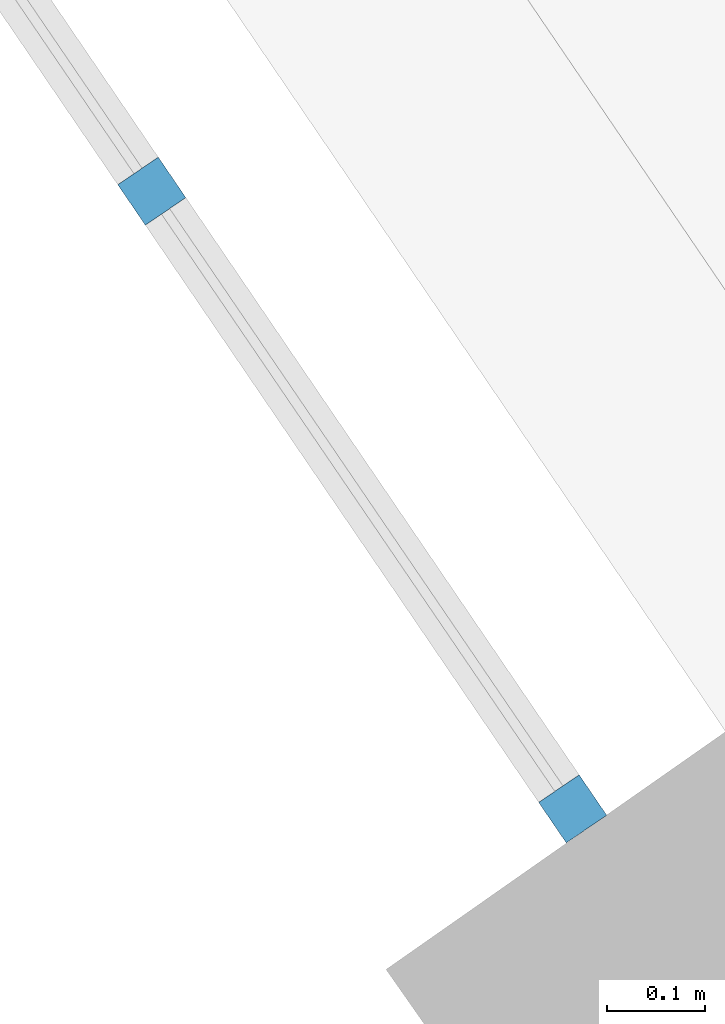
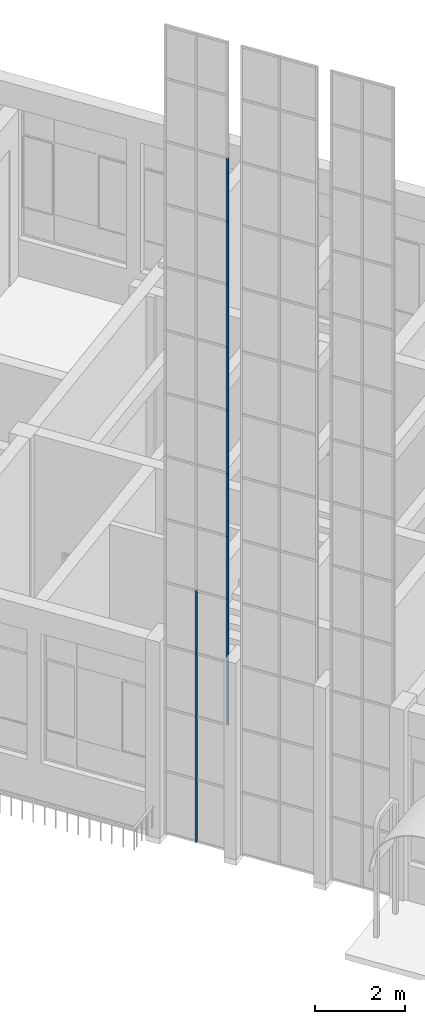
# One storey, part 17 of 157: 13 members, 1 element without a shape of its own.
"""IFC2X3 building model written with IfcOpenShell, lengths in millimetres."""

from ifc_helpers import new_model, entity, si_unit, converted_unit, derived_unit, direction, frame, origin, origin_2d_with_axis, place, context, subcontext, project, spatial, rectangle, extrude, source, transform, mapped, material, type_object, type_shapes, element, aggregate, save


model = new_model("IFC2X3")

# Units and contexts
model_context = context("Model", 3, precision=0.01, world=origin(), true_north=direction((6.123031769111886e-17, 1.0)))
body_context = subcontext(model_context, "Body", "Model", "MODEL_VIEW")
ifc_project = project(units=[si_unit("LENGTHUNIT", "METRE", prefix="MILLI"), si_unit("AREAUNIT", "SQUARE_METRE"), si_unit("VOLUMEUNIT", "CUBIC_METRE"), converted_unit("PLANEANGLEUNIT", "DEGREE", entity("IfcRatioMeasure", 0.017453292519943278), si_unit("PLANEANGLEUNIT", "RADIAN"), dimensions=[0, 0, 0, 0, 0, 0, 0]), si_unit("MASSUNIT", "GRAM", prefix="KILO"), derived_unit("MASSDENSITYUNIT", [(si_unit("MASSUNIT", "GRAM", prefix="KILO"), 1), (si_unit("LENGTHUNIT", "METRE"), -3)]), derived_unit("MOMENTOFINERTIAUNIT", [(si_unit("LENGTHUNIT", "METRE"), 4)]), si_unit("TIMEUNIT", "SECOND"), si_unit("FREQUENCYUNIT", "HERTZ"), si_unit("THERMODYNAMICTEMPERATUREUNIT", "DEGREE_CELSIUS"), derived_unit("THERMALTRANSMITTANCEUNIT", [(si_unit("MASSUNIT", "GRAM", prefix="KILO"), 1), (si_unit("THERMODYNAMICTEMPERATUREUNIT", "KELVIN"), -1), (si_unit("TIMEUNIT", "SECOND"), -3)]), derived_unit("THERMALCONDUCTANCEUNIT", [(si_unit("MASSUNIT", "GRAM", prefix="KILO"), 1), (si_unit("LENGTHUNIT", "METRE"), 1), (si_unit("THERMODYNAMICTEMPERATUREUNIT", "KELVIN"), -1), (si_unit("TIMEUNIT", "SECOND"), -3)]), derived_unit("VOLUMETRICFLOWRATEUNIT", [(si_unit("LENGTHUNIT", "METRE"), 3), (si_unit("TIMEUNIT", "SECOND"), -1)]), derived_unit("MASSFLOWRATEUNIT", [(si_unit("MASSUNIT", "GRAM", prefix="KILO"), 1), (si_unit("TIMEUNIT", "SECOND"), -1)]), derived_unit("ROTATIONALFREQUENCYUNIT", [(si_unit("TIMEUNIT", "SECOND"), -1)]), si_unit("ELECTRICCURRENTUNIT", "AMPERE"), si_unit("ELECTRICVOLTAGEUNIT", "VOLT"), si_unit("POWERUNIT", "WATT"), converted_unit("FORCEUNIT", "KIP", entity("IfcRatioMeasure", 2.088543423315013e-05), si_unit("FORCEUNIT", "NEWTON"), dimensions=[1, 1, -2, 0, 0, 0, 0]), si_unit("ILLUMINANCEUNIT", "LUX"), si_unit("LUMINOUSFLUXUNIT", "LUMEN"), si_unit("LUMINOUSINTENSITYUNIT", "CANDELA"), derived_unit("USERDEFINED", [(si_unit("MASSUNIT", "GRAM", prefix="KILO"), -1), (si_unit("LENGTHUNIT", "METRE"), -2), (si_unit("TIMEUNIT", "SECOND"), 3), (si_unit("LUMINOUSFLUXUNIT", "LUMEN"), 1)]), derived_unit("USERDEFINED", [(si_unit("MASSUNIT", "GRAM", prefix="KILO"), 1), (si_unit("LENGTHUNIT", "METRE"), 3), (si_unit("TIMEUNIT", "SECOND"), -3), (si_unit("ELECTRICCURRENTUNIT", "AMPERE"), -2)]), derived_unit("USERDEFINED", [(si_unit("LENGTHUNIT", "METRE"), 2), (si_unit("TIMEUNIT", "SECOND"), -2)]), derived_unit("SOUNDPOWERUNIT", [(si_unit("MASSUNIT", "GRAM", prefix="KILO"), 1), (si_unit("LENGTHUNIT", "METRE"), 2), (si_unit("TIMEUNIT", "SECOND"), -3)]), derived_unit("SOUNDPRESSUREUNIT", [(si_unit("MASSUNIT", "GRAM", prefix="KILO"), 1), (si_unit("LENGTHUNIT", "METRE"), -1), (si_unit("TIMEUNIT", "SECOND"), -2)]), derived_unit("LINEARVELOCITYUNIT", [(si_unit("LENGTHUNIT", "METRE"), 1), (si_unit("TIMEUNIT", "SECOND"), -1)]), si_unit("PRESSUREUNIT", "PASCAL"), derived_unit("USERDEFINED", [(si_unit("LENGTHUNIT", "METRE"), -2), (si_unit("MASSUNIT", "GRAM", prefix="KILO"), 1), (si_unit("TIMEUNIT", "SECOND"), -2)]), derived_unit("LINEARFORCEUNIT", [(si_unit("MASSUNIT", "GRAM", prefix="KILO"), 1), (si_unit("LENGTHUNIT", "METRE"), 1), (si_unit("TIMEUNIT", "SECOND"), -2), (si_unit("LENGTHUNIT", "METRE"), -1)]), derived_unit("PLANARFORCEUNIT", [(si_unit("MASSUNIT", "GRAM", prefix="KILO"), 1), (si_unit("LENGTHUNIT", "METRE"), 1), (si_unit("TIMEUNIT", "SECOND"), -2), (si_unit("LENGTHUNIT", "METRE"), -2)]), derived_unit("SPECIFICHEATCAPACITYUNIT", [(si_unit("LENGTHUNIT", "METRE"), 2), (si_unit("TIMEUNIT", "SECOND"), -2), (si_unit("THERMODYNAMICTEMPERATUREUNIT", "KELVIN"), -1)]), derived_unit("VAPORPERMEABILITYUNIT", [(si_unit("TIMEUNIT", "SECOND"), 1), (si_unit("LENGTHUNIT", "METRE"), -1)]), derived_unit("DYNAMICVISCOSITYUNIT", [(si_unit("MASSUNIT", "GRAM", prefix="KILO"), 1), (si_unit("LENGTHUNIT", "METRE"), -1), (si_unit("TIMEUNIT", "SECOND"), -1)]), derived_unit("THERMALEXPANSIONCOEFFICIENTUNIT", [(si_unit("THERMODYNAMICTEMPERATUREUNIT", "KELVIN"), -1)])], contexts=[model_context])

# Site, building, storey
site_placement = place(None, frame((0.0, 0.0, 0.0), z_axis=(0.0, 0.0, 1.0), x_axis=(0.8191520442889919, 0.5735764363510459, 0.0)))
site = spatial("IfcSite", under=ifc_project, at=site_placement, Name="Default", CompositionType="ELEMENT")
building_placement = place(site_placement, origin())
building = spatial("IfcBuilding", under=site, at=building_placement, CompositionType="ELEMENT")
storey_placement = place(building_placement, origin())
storey = spatial("IfcBuildingStorey", under=building, at=storey_placement, Name="1.EG +0.00", CompositionType="ELEMENT", Elevation=-4.331468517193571e-12)

# Curtain wall, members
curtain_wall_type = type_object("IfcCurtainWallType", Name="Curtain Wall:Curtain_Wall_CJC", PredefinedType="NOTDEFINED")
curtain_wall_placement = place(storey_placement, origin())
curtain_wall = element("IfcCurtainWall", 1, at=curtain_wall_placement, inside=storey, type_object=curtain_wall_type, Name="Curtain Wall:Curtain_Wall_CJC", ObjectType="Curtain Wall:Curtain_Wall_CJC")
ifc_material = material(Name="Aluminium")
member_type_1 = type_object("IfcMemberType", Name="Rectangular Mullion:5x5", PredefinedType="MULLION", material=ifc_material)
shared_shape_1 = source(origin(), body_context, "Body", "SweptSolid", [
    extrude(rectangle(XDim=50.0, YDim=50.0, at=origin_2d_with_axis()), frame((-25.0, 0.0, -1700.0), z_axis=(0.0, 0.0, 1.0), x_axis=(0.0, -1.0, 0.0)), (0.0, 0.0, 1.0), 1700.0000000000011),
])
type_shapes(member_type_1, [shared_shape_1])
member_1_placement = place(curtain_wall_placement, frame((-223070.5851543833, 113945.23194626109, 5100.0), z_axis=(0.0, 0.0, 1.0), x_axis=(-0.01272958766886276, -0.999918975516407, 0.0)))
member_1 = element("IfcMember", 2, at=member_1_placement, type_object=member_type_1, material=ifc_material, Name="Rectangular Mullion:5x5", ObjectType="Rectangular Mullion:5x5", context=body_context, shape_type="MappedRepresentation", body=[
    mapped(shared_shape_1, transform((0.0, 0.0, 0.0), scale=1.0)),
])
member_2_placement = place(curtain_wall_placement, frame((-223070.5851543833, 113945.23194626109, 6800.0), z_axis=(0.0, 0.0, 1.0), x_axis=(-0.01272958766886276, -0.999918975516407, 0.0)))
member_2 = element("IfcMember", 3, at=member_2_placement, type_object=member_type_1, material=ifc_material, Name="Rectangular Mullion:5x5", ObjectType="Rectangular Mullion:5x5", context=body_context, shape_type="MappedRepresentation", body=[
    mapped(shared_shape_1, transform((0.0, 0.0, 0.0), scale=1.0)),
])
member_3_placement = place(curtain_wall_placement, frame((-223070.5851543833, 113945.23194626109, 8500.0), z_axis=(0.0, 0.0, 1.0), x_axis=(-0.01272958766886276, -0.999918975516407, 0.0)))
member_3 = element("IfcMember", 4, at=member_3_placement, type_object=member_type_1, material=ifc_material, Name="Rectangular Mullion:5x5", ObjectType="Rectangular Mullion:5x5", context=body_context, shape_type="MappedRepresentation", body=[
    mapped(shared_shape_1, transform((0.0, 0.0, 0.0), scale=1.0)),
])
member_4_placement = place(curtain_wall_placement, frame((-223070.5851543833, 113945.23194626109, 10200.0), z_axis=(0.0, 0.0, 1.0), x_axis=(-0.01272958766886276, -0.999918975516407, 0.0)))
member_4 = element("IfcMember", 5, at=member_4_placement, type_object=member_type_1, material=ifc_material, Name="Rectangular Mullion:5x5", ObjectType="Rectangular Mullion:5x5", context=body_context, shape_type="MappedRepresentation", body=[
    mapped(shared_shape_1, transform((0.0, 0.0, 0.0), scale=1.0)),
])
member_5_placement = place(curtain_wall_placement, frame((-223070.5851543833, 113945.23194626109, 11900.0), z_axis=(0.0, 0.0, 1.0), x_axis=(-0.01272958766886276, -0.999918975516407, 0.0)))
member_5 = element("IfcMember", 6, at=member_5_placement, type_object=member_type_1, material=ifc_material, Name="Rectangular Mullion:5x5", ObjectType="Rectangular Mullion:5x5", context=body_context, shape_type="MappedRepresentation", body=[
    mapped(shared_shape_1, transform((0.0, 0.0, 0.0), scale=1.0)),
])
member_6_placement = place(curtain_wall_placement, frame((-223070.5851543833, 113945.23194626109, 13600.0), z_axis=(0.0, 0.0, 1.0), x_axis=(-0.01272958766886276, -0.999918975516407, 0.0)))
member_6 = element("IfcMember", 7, at=member_6_placement, type_object=member_type_1, material=ifc_material, Name="Rectangular Mullion:5x5", ObjectType="Rectangular Mullion:5x5", context=body_context, shape_type="MappedRepresentation", body=[
    mapped(shared_shape_1, transform((0.0, 0.0, 0.0), scale=1.0)),
])
member_7_placement = place(curtain_wall_placement, frame((-223070.5851543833, 113945.23194626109, 15300.0), z_axis=(0.0, 0.0, 1.0), x_axis=(-0.01272958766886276, -0.999918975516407, 0.0)))
member_7 = element("IfcMember", 8, at=member_7_placement, type_object=member_type_1, material=ifc_material, Name="Rectangular Mullion:5x5", ObjectType="Rectangular Mullion:5x5", context=body_context, shape_type="MappedRepresentation", body=[
    mapped(shared_shape_1, transform((0.0, 0.0, 0.0), scale=1.0)),
])
member_8_placement = place(curtain_wall_placement, frame((-223070.5851543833, 113945.23194626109, 17000.0), z_axis=(0.0, 0.0, 1.0), x_axis=(-0.01272958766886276, -0.999918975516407, 0.0)))
member_8 = element("IfcMember", 9, at=member_8_placement, type_object=member_type_1, material=ifc_material, Name="Rectangular Mullion:5x5", ObjectType="Rectangular Mullion:5x5", context=body_context, shape_type="MappedRepresentation", body=[
    mapped(shared_shape_1, transform((0.0, 0.0, 0.0), scale=1.0)),
])
member_9_placement = place(curtain_wall_placement, frame((-223070.5851543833, 113945.23194626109, 18700.0), z_axis=(0.0, 0.0, 1.0), x_axis=(-0.01272958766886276, -0.999918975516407, 0.0)))
member_9 = element("IfcMember", 10, at=member_9_placement, type_object=member_type_1, material=ifc_material, Name="Rectangular Mullion:5x5", ObjectType="Rectangular Mullion:5x5", context=body_context, shape_type="MappedRepresentation", body=[
    mapped(shared_shape_1, transform((0.0, 0.0, 0.0), scale=1.0)),
])
member_type_2 = type_object("IfcMemberType", Name="Rectangular Mullion:5x5", PredefinedType="MULLION", material=ifc_material)
shared_shape_2 = source(origin(), body_context, "Body", "SweptSolid", [
    extrude(rectangle(XDim=50.0, YDim=50.0, at=origin_2d_with_axis()), frame((0.0, 0.0, -1700.0), z_axis=(0.0, 0.0, 1.0), x_axis=(0.0, -1.0, 0.0)), (0.0, 0.0, 1.0), 1700.0),
])
type_shapes(member_type_2, [shared_shape_2])
member_10_placement = place(curtain_wall_placement, frame((-223060.55261829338, 114733.29543030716, 0.0), z_axis=(0.0, 0.0, -1.0), x_axis=(0.01272958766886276, 0.999918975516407, 0.0)))
member_10 = element("IfcMember", 11, at=member_10_placement, type_object=member_type_2, material=ifc_material, Name="Rectangular Mullion:5x5", ObjectType="Rectangular Mullion:5x5", context=body_context, shape_type="MappedRepresentation", body=[
    mapped(shared_shape_2, transform((0.0, 0.0, 0.0), scale=1.0)),
])
member_type_3 = type_object("IfcMemberType", Name="Rectangular Mullion:5x5", PredefinedType="MULLION", material=ifc_material)
shared_shape_3 = source(origin(), body_context, "Body", "SweptSolid", [
    extrude(rectangle(XDim=50.0, YDim=50.0, at=origin_2d_with_axis()), frame((0.0, 0.0, -1700.0), z_axis=(0.0, 0.0, 1.0), x_axis=(0.0, -1.0, 0.0)), (0.0, 0.0, 1.0), 1700.0),
])
type_shapes(member_type_3, [shared_shape_3])
member_11_placement = place(curtain_wall_placement, frame((-223060.55261829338, 114733.29543030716, 1700.0), z_axis=(0.0, 0.0, -1.0), x_axis=(0.01272958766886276, 0.999918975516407, 0.0)))
member_11 = element("IfcMember", 12, at=member_11_placement, type_object=member_type_3, material=ifc_material, Name="Rectangular Mullion:5x5", ObjectType="Rectangular Mullion:5x5", context=body_context, shape_type="MappedRepresentation", body=[
    mapped(shared_shape_3, transform((0.0, 0.0, 0.0), scale=1.0)),
])
member_12_placement = place(curtain_wall_placement, frame((-223060.55261829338, 114733.29543030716, 3400.0), z_axis=(0.0, 0.0, -1.0), x_axis=(0.01272958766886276, 0.999918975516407, 0.0)))
member_12 = element("IfcMember", 13, at=member_12_placement, type_object=member_type_3, material=ifc_material, Name="Rectangular Mullion:5x5", ObjectType="Rectangular Mullion:5x5", context=body_context, shape_type="MappedRepresentation", body=[
    mapped(shared_shape_3, transform((0.0, 0.0, 0.0), scale=1.0)),
])
member_13_placement = place(curtain_wall_placement, frame((-223060.55261829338, 114733.29543030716, 5100.0), z_axis=(0.0, 0.0, -1.0), x_axis=(0.01272958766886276, 0.999918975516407, 0.0)))
member_13 = element("IfcMember", 14, at=member_13_placement, type_object=member_type_3, material=ifc_material, Name="Rectangular Mullion:5x5", ObjectType="Rectangular Mullion:5x5", context=body_context, shape_type="MappedRepresentation", body=[
    mapped(shared_shape_3, transform((0.0, 0.0, 0.0), scale=1.0)),
])
aggregate(curtain_wall, [member_10, member_11, member_12, member_1, member_13, member_2, member_3, member_4, member_5, member_6, member_7, member_8, member_9])

save(model, "model.ifc")
